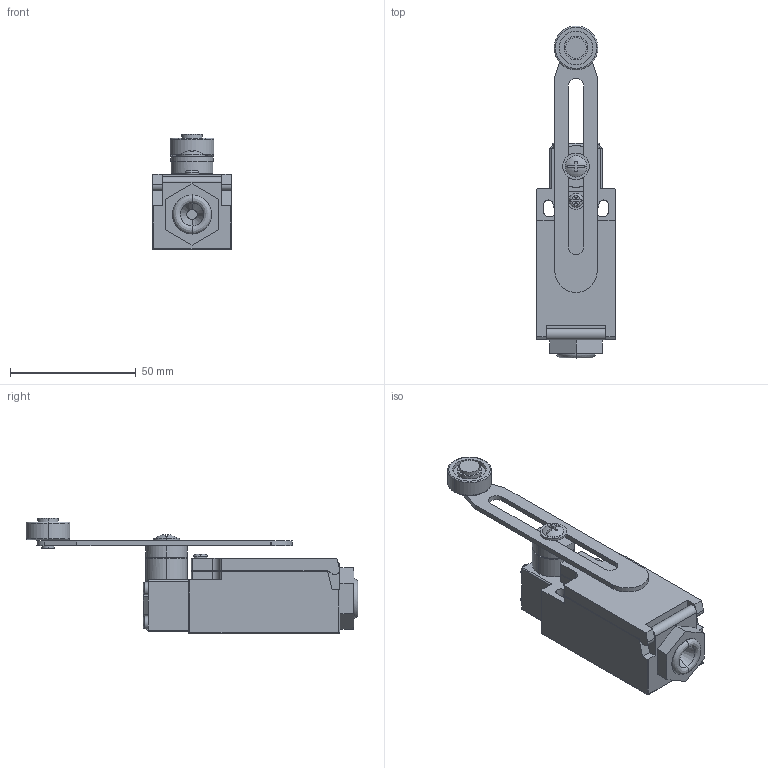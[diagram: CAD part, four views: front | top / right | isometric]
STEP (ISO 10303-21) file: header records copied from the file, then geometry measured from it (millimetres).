
FILE_DESCRIPTION (( 'STEP AP203' ), '1' );
FILE_NAME ('FM9208.STEP', '2018-06-01T16:58:15', ( '' ), ( '' ), 'SwSTEP 2.0', 'SolidWorks 2012', '' );
FILE_SCHEMA (( 'CONFIG_CONTROL_DESIGN' ));
Length unit declared in the file: millimetre
Products named in the file (1): FM9208
Bounding box: 31.3 x 131.7 x 45.85 mm (x, y, z)
Volume: 68865.5 mm3; surface area: 17247.2 mm2
Topology: 1 solids, 1 shells, 323 faces, 856 edges, 546 vertices
Faces by surface type: plane 194, cylinder 96, torus 23, sphere 6, bspline 2, cone 2
Entity records: 10393 total; most frequent: CARTESIAN_POINT 2123, DIRECTION 1735, ORIENTED_EDGE 1704, EDGE_CURVE 852, AXIS2_PLACEMENT_3D 584, VECTOR 567, LINE 567, VERTEX_POINT 546
